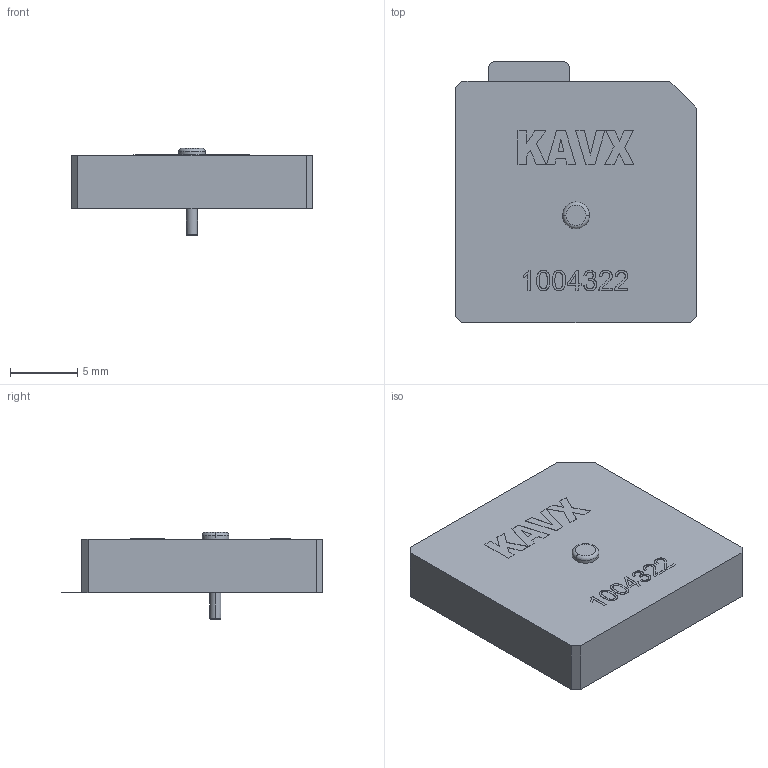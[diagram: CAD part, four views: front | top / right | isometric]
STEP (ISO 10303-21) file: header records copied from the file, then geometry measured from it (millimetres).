
FILE_DESCRIPTION((''),'2;1');
FILE_NAME('1004322_C-ME-FIT','2024-08-13T15:54:13',('jarvayo'),(''),'CREO PARAMETRIC BY PTC INC, 2024063','CREO PARAMETRIC BY PTC INC, 2024063','');
FILE_SCHEMA(('AP203_CONFIGURATION_CONTROLLED_3D_DESIGN_OF_MECHANICAL_PARTS_AND_ASSEMBLIES_MIM_LF { 1 0 10303 403 2 1 2 }'));
Length unit declared in the file: millimetre
Products named in the file (1): 1004322_C-ME-FIT
Bounding box: 18 x 19.5 x 6.5 mm (x, y, z)
Volume: 1292.3 mm3; surface area: 950.4 mm2
Topology: 1 solids, 1 shells, 232 faces, 636 edges, 424 vertices
Faces by surface type: plane 109, extrusion 107, cylinder 12, torus 4
Entity records: 8420 total; most frequent: CARTESIAN_POINT 2346, ORIENTED_EDGE 1272, DIRECTION 838, EDGE_CURVE 636, VECTOR 491, VERTEX_POINT 424, LINE 384, B_SPLINE_CURVE_WITH_KNOTS 321
